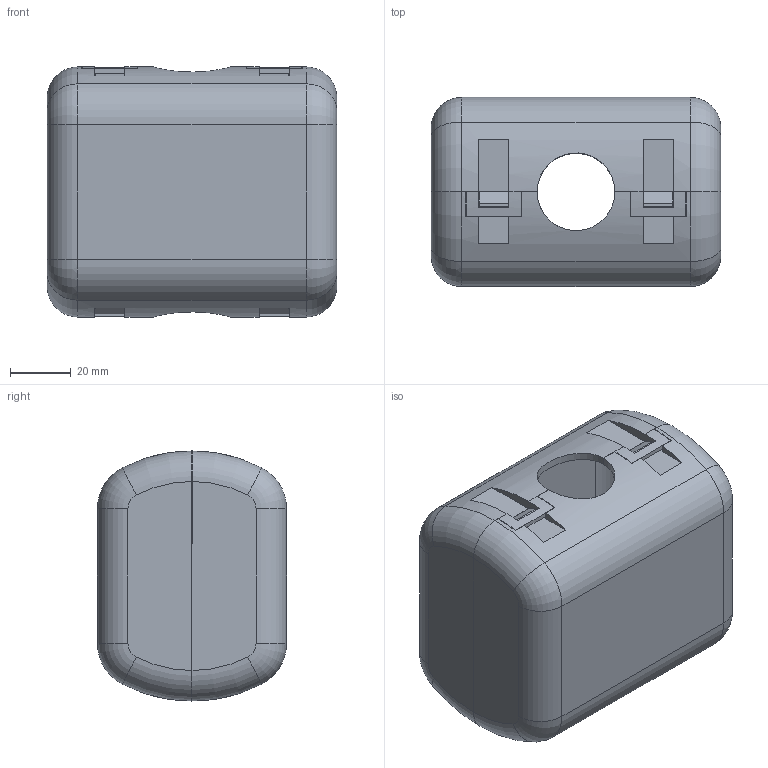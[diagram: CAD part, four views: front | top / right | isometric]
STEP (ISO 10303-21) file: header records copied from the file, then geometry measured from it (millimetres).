
FILE_DESCRIPTION (( 'STEP AP203' ), '1' );
FILE_NAME ('扻豵鵨 870_捘.STEP', '2018-09-04T06:42:17', ( '' ), ( '' ), 'SwSTEP 2.0', 'SolidWorks 2017', '' );
FILE_SCHEMA (( 'CONFIG_CONTROL_DESIGN' ));
Length unit declared in the file: millimetre
Products named in the file (2): 扻豵鵨 870_捘; 扻豵鵨 870 (瀁鋋睯縺)
Assembly tree (2 placements, depth 2):
  扻豵鵨 870_捘
    扻豵鵨 870 (瀁鋋睯縺)  x2
Bounding box: 95 x 62 x 82 mm (x, y, z)
Volume: 72707.5 mm3; surface area: 60177.7 mm2
Topology: 2 solids, 2 shells, 252 faces, 704 edges, 448 vertices
Faces by surface type: plane 174, cylinder 46, torus 32
Entity records: 4610 total; most frequent: CARTESIAN_POINT 1093, ORIENTED_EDGE 704, DIRECTION 694, EDGE_CURVE 352, VECTOR 248, LINE 248, VERTEX_POINT 224, AXIS2_PLACEMENT_3D 223
